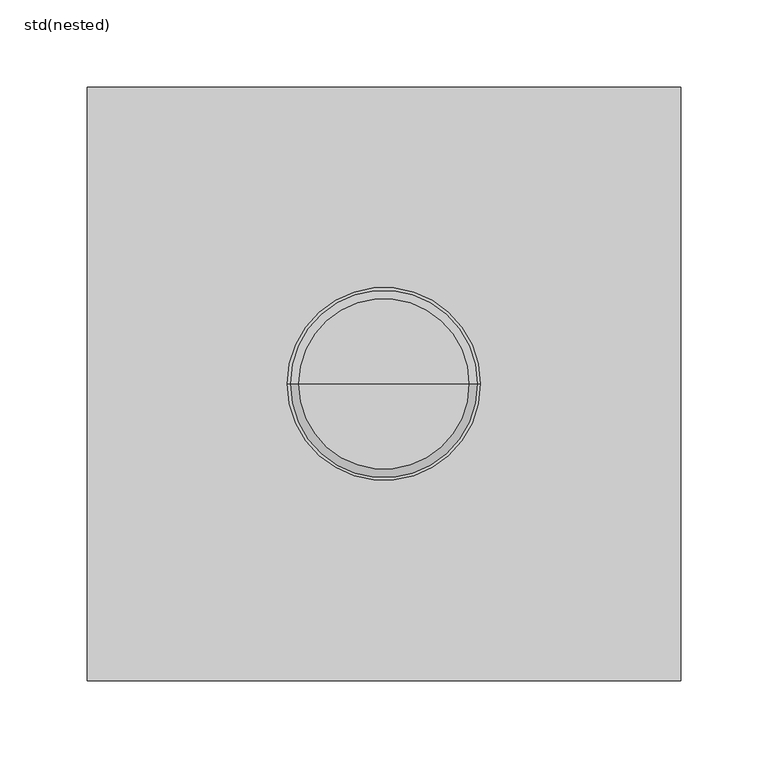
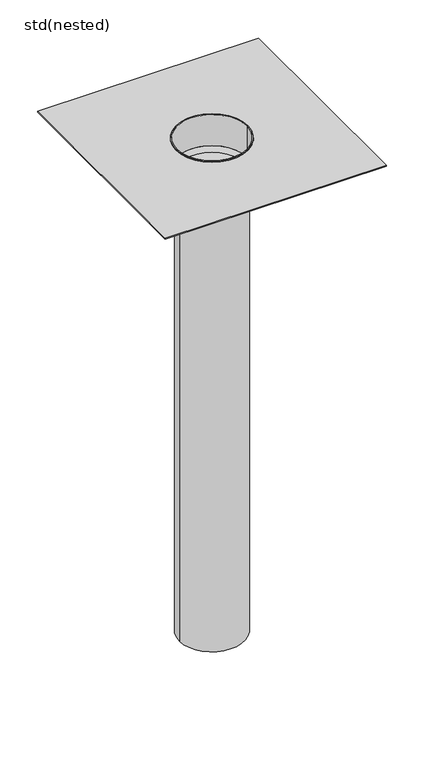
"""IFC4 building model written with IfcOpenShell, lengths in millimetres: sanitary terminal geometry, ZZZ_do not use_PF_ST_UN_spear gully with adhesive flange_ACO : std(nested)."""

from ifc_helpers import new_model, si_unit, point, frame, origin, origin_2d, place, context, project, spatial, polyline, circle_curve, trimmed, segment, composite_curve, outline, extrude, source, transform, mapped, element, save
from ifc_brep_helpers import plane_surface, cylinder_surface, revolved_surface, advanced_brep


def std_nested_f8cbc78b(model_context):
    return source(origin(), model_context, "Body", "SolidModel", [
        extrude(outline(polyline([(170.0, 170.0), (170.0, -170.0), (-170.0, -170.0), (-170.0, 170.0), (170.0, 170.0)]), holes=[composite_curve([segment(trimmed(circle_curve(origin_2d(), 55.3), [point((-55.3, 0.0))], [point((55.3, 0.0))], True, "CARTESIAN"), True, "CONTINUOUS"), segment(trimmed(circle_curve(origin_2d(), 55.3), [point((55.3, 0.0))], [point((-55.3, 0.0))], True, "CARTESIAN"), True, "CONTINUOUS")], self_intersect=False)]), frame((0.0, 0.0, -2.5), z_axis=(0.0, 0.0, 1.0), x_axis=(1.0, 0.0, 0.0)), (0.0, 0.0, 1.0), 1.5),
        advanced_brep(
        [(0.0, 0.0, -800.0), (-50.0, 0.0, -800.0), (50.0, 0.0, -800.0), (55.3, 0.0, -51.0), (-55.3, 0.0, -51.0), (-55.3, 0.0, 0.0), (55.3, 0.0, 0.0), (50.0, 0.0, -58.7), (-50.0, 0.0, -58.7), (48.7644055, 0.0, -57.8495259), (-48.7644055, 0.0, -57.8495259), (0.0, 0.0, -57.8495259), (53.8, 0.0, -50.5336622), (-53.8, 0.0, -50.5336622), (53.8, 0.0, 0.0), (-53.8, 0.0, 0.0)],
        [
            (0, 1),
            (1, 2, circle_curve(frame((0.0, 0.0, -800.0), z_axis=(0.0, 0.0, -1.0), x_axis=(-1.0, 0.0, 0.0)), 50.0)),
            (2, 0),
            (2, 1, circle_curve(frame((0.0, 0.0, -800.0), z_axis=(0.0, 0.0, -1.0), x_axis=(-1.0, 0.0, 0.0)), 50.0)),
            (3, 4, circle_curve(frame((0.0, 0.0, -51.0), z_axis=(0.0, 0.0, 1.0), x_axis=(-1.0, 0.0, 0.0)), 55.3)),
            (4, 5),
            (5, 6, circle_curve(frame((0.0, 0.0, 0.0), z_axis=(0.0, 0.0, -1.0), x_axis=(-1.0, 0.0, 0.0)), 55.3)),
            (6, 3),
            (4, 3, circle_curve(frame((0.0, 0.0, -51.0), z_axis=(0.0, 0.0, 1.0), x_axis=(-1.0, 0.0, 0.0)), 55.3)),
            (6, 5, circle_curve(frame((0.0, 0.0, 0.0), z_axis=(0.0, 0.0, -1.0), x_axis=(-1.0, 0.0, 0.0)), 55.3)),
            (7, 8, circle_curve(frame((0.0, 0.0, -58.7), z_axis=(0.0, 0.0, 1.0), x_axis=(-1.0, 0.0, 0.0)), 50.0)),
            (8, 4),
            (3, 7),
            (8, 7, circle_curve(frame((0.0, 0.0, -58.7), z_axis=(0.0, 0.0, 1.0), x_axis=(-1.0, 0.0, 0.0)), 50.0)),
            (1, 8),
            (7, 2),
            (9, 10, circle_curve(frame((0.0, 0.0, -57.8495259), z_axis=(0.0, 0.0, 1.0), x_axis=(-1.0, 0.0, 0.0)), 48.7644055)),
            (10, 11),
            (11, 9),
            (10, 9, circle_curve(frame((0.0, 0.0, -57.8495259), z_axis=(0.0, 0.0, 1.0), x_axis=(-1.0, 0.0, 0.0)), 48.7644055)),
            (12, 13, circle_curve(frame((0.0, 0.0, -50.5336622), z_axis=(0.0, 0.0, 1.0), x_axis=(-1.0, 0.0, 0.0)), 53.8)),
            (13, 10),
            (9, 12),
            (13, 12, circle_curve(frame((0.0, 0.0, -50.5336622), z_axis=(0.0, 0.0, 1.0), x_axis=(-1.0, 0.0, 0.0)), 53.8)),
            (14, 15, circle_curve(frame((0.0, 0.0, 0.0), z_axis=(0.0, 0.0, 1.0), x_axis=(-1.0, 0.0, 0.0)), 53.8)),
            (15, 13),
            (12, 14),
            (15, 14, circle_curve(frame((0.0, 0.0, 0.0), z_axis=(0.0, 0.0, 1.0), x_axis=(-1.0, 0.0, 0.0)), 53.8)),
            (5, 15),
            (14, 6),
        ],
        [
            plane_surface(frame((0.0, 0.0, -800.0), z_axis=(0.0, 0.0, -1.0), x_axis=(-1.0, 0.0, 0.0))),
            cylinder_surface(frame((0.0, 0.0, -138.7), z_axis=(0.0, 0.0, -1.0), x_axis=(-1.0, 0.0, 0.0)), 55.3),
            revolved_surface(polyline([(-55.3, 0.0, -51.0), (-50.0, 0.0, -58.7)]), (0.0, 0.0, -138.7), (0.0, 0.0, -1.0)),
            cylinder_surface(frame((0.0, 0.0, -138.7), z_axis=(0.0, 0.0, -1.0), x_axis=(-1.0, 0.0, 0.0)), 50.0),
            plane_surface(frame((0.0, 0.0, -57.8495259), z_axis=(0.0, 0.0, 1.0), x_axis=(-1.0, 0.0, 0.0))),
            revolved_surface(polyline([(-48.7644055, 0.0, -57.8495259), (-53.8, 0.0, -50.5336622)]), (0.0, 0.0, -138.7), (0.0, 0.0, -1.0)),
            revolved_surface(polyline([(-53.8, 0.0, -50.53366220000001), (-53.8, 0.0, 0.0)]), (0.0, 0.0, -138.7), (0.0, 0.0, -1.0)),
            plane_surface(frame((0.0, 0.0, 0.0), z_axis=(0.0, 0.0, 1.0), x_axis=(-1.0, 0.0, 0.0))),
        ],
        [
            (0, [[1, 2, 3]]),
            (0, [[-3, 4, -1]]),
            (1, [[5, 6, 7, 8]]),
            (1, [[9, -8, 10, -6]]),
            (2, [[11, 12, -5, 13]]),
            (2, [[14, -13, -9, -12]]),
            (3, [[-2, 15, -11, 16]]),
            (3, [[-4, -16, -14, -15]]),
            (4, [[17, 18, 19]]),
            (4, [[20, -19, -18]]),
            (5, [[21, 22, -17, 23]]),
            (5, [[24, -23, -20, -22]]),
            (6, [[25, 26, -21, 27]]),
            (6, [[28, -27, -24, -26]]),
            (7, [[-7, 29, -25, 30]]),
            (7, [[-10, -30, -28, -29]]),
        ],
    ),
    ])


if __name__ == "__main__":
    model = new_model("IFC4")
    model_context = context("Model", 3, world=origin())
    ifc_project = project(units=[si_unit("LENGTHUNIT", "METRE", prefix="MILLI")], contexts=[model_context])
    site = spatial("IfcSite", under=ifc_project)
    building = spatial("IfcBuilding", under=site)
    placement = place(None, origin())
    std_nested_shape = std_nested_f8cbc78b(model_context)
    element("IfcSanitaryTerminal", 1, ObjectType="ZZZ_do not use_PF_ST_UN_spear gully with adhesive flange_ACO : std(nested)", at=placement, inside=building, context=model_context, shape_type="MappedRepresentation", body=[
        mapped(std_nested_shape, transform((0.0, 0.0, 0.0), x_axis=(1.0, 0.0, 0.0), y_axis=(0.0, 1.0, 0.0), z_axis=(0.0, 0.0, 1.0))),
    ])
    save(model, "model.ifc")
